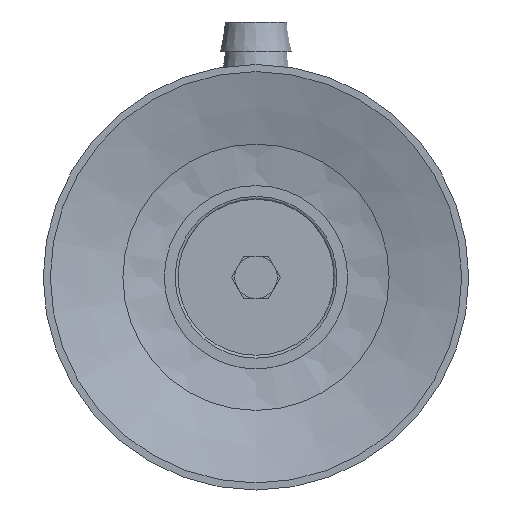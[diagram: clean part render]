
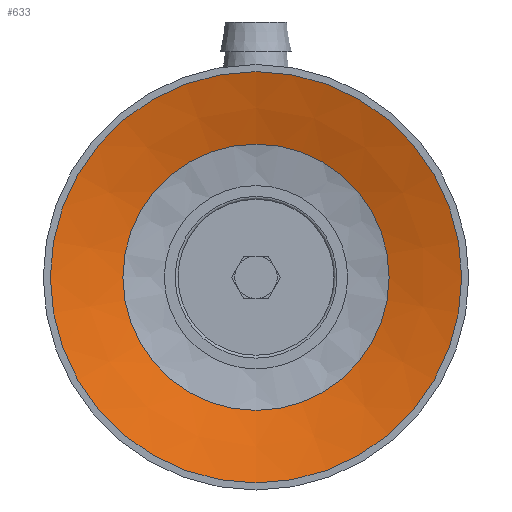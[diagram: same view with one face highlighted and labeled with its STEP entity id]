
A CAD part, front view. The second image highlights one B-rep face of the part: STEP entity #633.
In plain terms, the highlighted conical face has half-angle 73 degrees and reference radius 7.958 mm.
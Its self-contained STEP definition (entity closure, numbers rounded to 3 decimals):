
#633=ADVANCED_FACE('',(#945,#946),#947,.F.);
#945=FACE_BOUND('',#1310,.T.);
#946=FACE_OUTER_BOUND('',#1311,.T.);
#947=CONICAL_SURFACE('',#1312,7.958,1.274);
#1310=EDGE_LOOP('',(#2270));
#1311=EDGE_LOOP('',(#2271));
#1312=AXIS2_PLACEMENT_3D('',#2272,#2273,#2274);
#2270=ORIENTED_EDGE('',*,*,#2681,.T.);
#2271=ORIENTED_EDGE('',*,*,#2682,.T.);
#2272=CARTESIAN_POINT('',(0.0,9.363,0.0));
#2273=DIRECTION('',(-0.0,-1.0,0.));
#2274=DIRECTION('',(0.0,0.,-1.0));
#2681=EDGE_CURVE('',#3125,#3125,#3126,.T.);
#2682=EDGE_CURVE('',#3127,#3127,#3128,.T.);
#3125=VERTEX_POINT('',#4112);
#3126=CIRCLE('',#4113,9.388);
#3127=VERTEX_POINT('',#4114);
#3128=CIRCLE('',#4115,14.5);
#4112=CARTESIAN_POINT('',(0.0,8.926,-9.388));
#4113=AXIS2_PLACEMENT_3D('',#4545,#4546,#4547);
#4114=CARTESIAN_POINT('',(0.0,7.363,-14.5));
#4115=AXIS2_PLACEMENT_3D('',#4548,#4549,#4550);
#4545=CARTESIAN_POINT('',(0.0,8.926,0.0));
#4546=DIRECTION('',(0.0,1.0,0.));
#4547=DIRECTION('',(0.0,0.,-1.0));
#4548=CARTESIAN_POINT('',(0.0,7.363,0.0));
#4549=DIRECTION('',(0.0,-1.0,0.));
#4550=DIRECTION('',(0.0,0.,-1.0));
